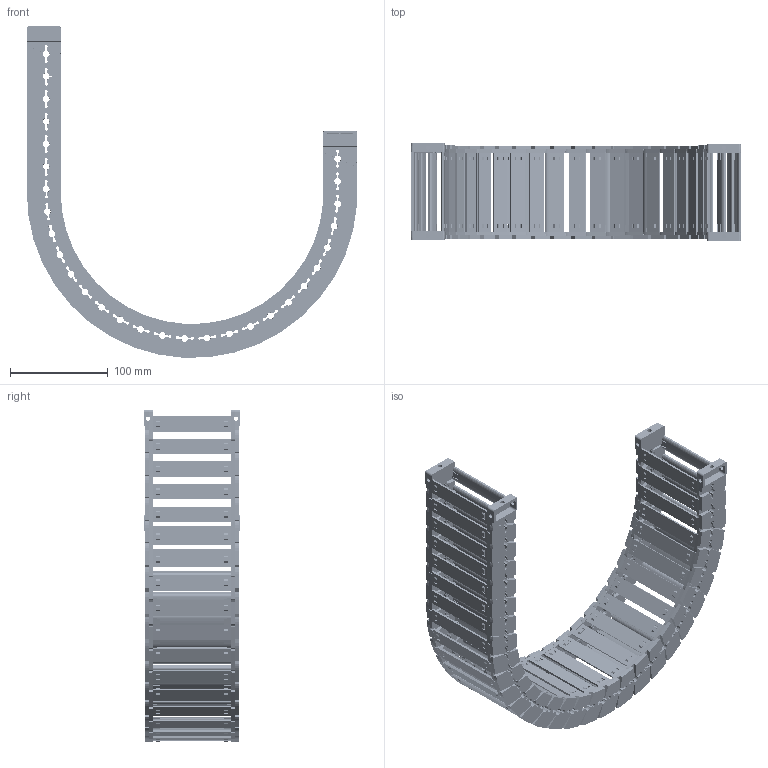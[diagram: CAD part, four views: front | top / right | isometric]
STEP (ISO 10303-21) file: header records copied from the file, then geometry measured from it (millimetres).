
FILE_DESCRIPTION((''),'2;1');
FILE_NAME('JY-28X80-R150_ASM','2026-03-26T08:00:12',('admin'),(''),'CREO PARAMETRIC BY PTC INC, 2021023','CREO PARAMETRIC BY PTC INC, 2021023','');
FILE_SCHEMA(('CONFIG_CONTROL_DESIGN'));
Length unit declared in the file: millimetre
Products named in the file (11): 28XL-L; 25-35XL-YP; 28XL-R; ASM0001_ASM; 28-LTT-A-L; 28-LTT-A-R; 28XL-LTT-A_ASM; 28-LTT-B-L; 28-LTT-B-R; 28XL-LTT-B_ASM; JY-28X80-R150_ASM
Assembly tree (42 placements, depth 3):
  JY-28X80-R150_ASM
    ASM0001_ASM  x28
      28XL-L
      25-35XL-YP
      28XL-R
    28XL-LTT-A_ASM
      28-LTT-A-L
      25-35XL-YP  x2
      28-LTT-A-R
    28XL-LTT-B_ASM
      28-LTT-B-L
      25-35XL-YP  x2
      28-LTT-B-R
Bounding box: 337.23 x 99 x 338.94 mm (x, y, z)
Volume: 549683.6 mm3; surface area: 395906.5 mm2
Topology: 120 solids, 120 shells, 9750 faces, 28988 edges, 19358 vertices
Faces by surface type: plane 6392, cone 1766, cylinder 1394, bspline 198
Entity records: 29175 total; most frequent: CARTESIAN_POINT 9500, ORIENTED_EDGE 4352, DIRECTION 3675, EDGE_CURVE 2176, VERTEX_POINT 1454, VECTOR 1365, LINE 1365, AXIS2_PLACEMENT_3D 1155
